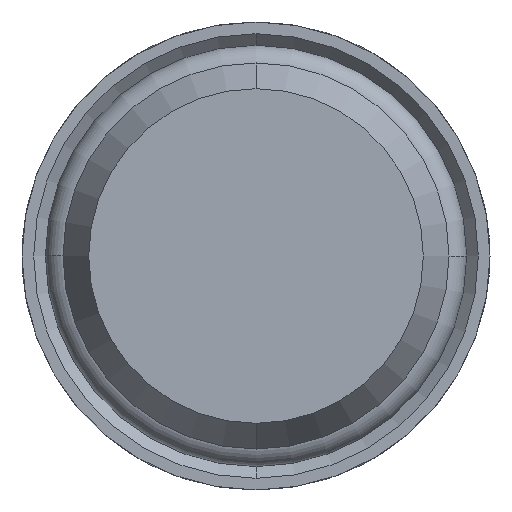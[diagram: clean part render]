
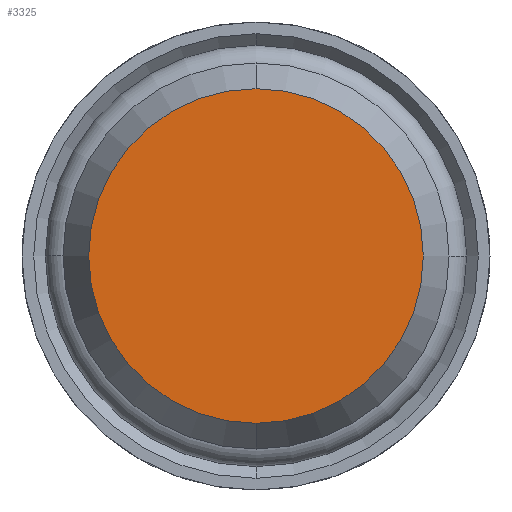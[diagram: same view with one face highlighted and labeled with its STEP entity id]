
A CAD part, front view. The second image highlights one B-rep face of the part: STEP entity #3325.
In plain terms, the highlighted planar face has unit normal (0, -1, 0).
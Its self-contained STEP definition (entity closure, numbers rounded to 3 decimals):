
#513 = FACE_OUTER_BOUND ( 'NONE', #2904, .T. ) ;
#718 = AXIS2_PLACEMENT_3D ( 'NONE', #2445, #2446, #2447 ) ;
#951 = CARTESIAN_POINT ( 'NONE',  ( 0., -20.5, 7.15 ) ) ;
#1531 = ORIENTED_EDGE ( 'NONE', *, *, #1612, .T. ) ;
#1532 = ORIENTED_EDGE ( 'NONE', *, *, #2804, .T. ) ;
#1612 = EDGE_CURVE ( 'NONE', #3750, #3747, #3427, .T. ) ;
#1761 = CARTESIAN_POINT ( 'NONE',  ( 0., -20.5, 0. ) ) ;
#1762 = DIRECTION ( 'NONE',  ( 0., -1., 0. ) ) ;
#1763 = DIRECTION ( 'NONE',  ( 0., 0., -1. ) ) ;
#1804 = CARTESIAN_POINT ( 'NONE',  ( 0., -20.5, 0. ) ) ;
#1805 = DIRECTION ( 'NONE',  ( 0., -1., 0. ) ) ;
#1806 = DIRECTION ( 'NONE',  ( 0., 0., -1. ) ) ;
#2437 = PLANE ( 'NONE',  #718 ) ;
#2445 = CARTESIAN_POINT ( 'NONE',  ( 0., -20.5, 0. ) ) ;
#2446 = DIRECTION ( 'NONE',  ( 0., -1., 0. ) ) ;
#2447 = DIRECTION ( 'NONE',  ( 0., 0., -1. ) ) ;
#2804 = EDGE_CURVE ( 'NONE', #3747, #3750, #3571, .T. ) ;
#2904 = EDGE_LOOP ( 'NONE', ( #1531, #1532 ) ) ;
#3155 = CARTESIAN_POINT ( 'NONE',  ( 0., -20.5, -7.15 ) ) ;
#3163 = AXIS2_PLACEMENT_3D ( 'NONE', #1804, #1805, #1806 ) ;
#3234 = AXIS2_PLACEMENT_3D ( 'NONE', #1761, #1762, #1763 ) ;
#3325 = ADVANCED_FACE ( 'NONE', ( #513 ), #2437, .T. ) ;
#3427 = CIRCLE ( 'NONE', #3163, 7.15 ) ;
#3571 = CIRCLE ( 'NONE', #3234, 7.15 ) ;
#3747 = VERTEX_POINT ( 'NONE', #3155 ) ;
#3750 = VERTEX_POINT ( 'NONE', #951 ) ;
